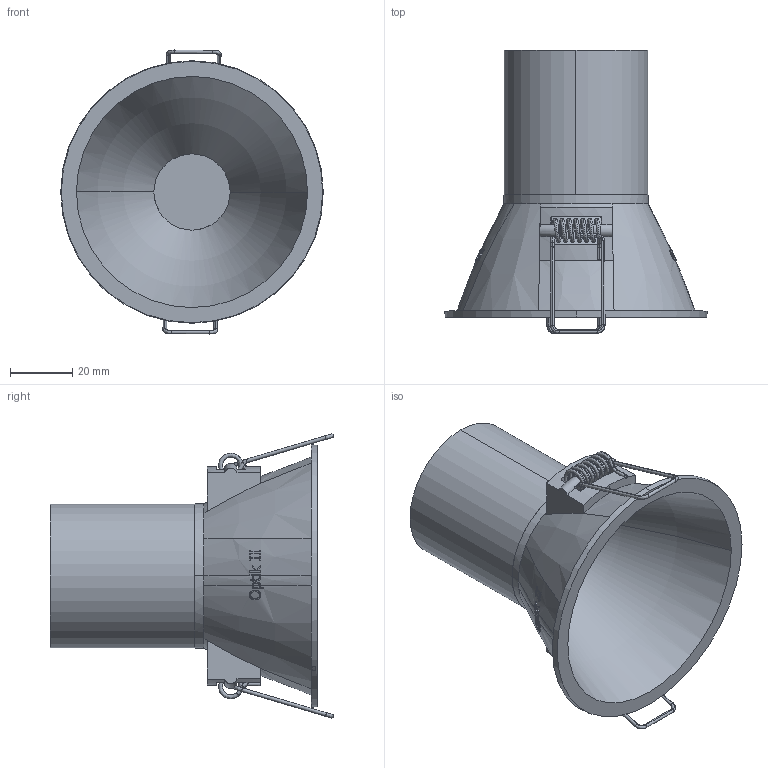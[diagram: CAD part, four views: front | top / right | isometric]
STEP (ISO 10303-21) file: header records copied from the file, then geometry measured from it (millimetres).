
FILE_DESCRIPTION (( 'STEP AP214' ), '1' );
FILE_NAME ('Optik 2.STEP', '2020-03-02T10:28:07', ( '' ), ( '' ), 'SwSTEP 2.0', 'SolidWorks 2018', '' );
FILE_SCHEMA (( 'AUTOMOTIVE_DESIGN' ));
Length unit declared in the file: millimetre
Products named in the file (10): Ensamble Cupulas_Cupula M; Tornillo DIN 7981 Ø2.2; disipador FINO_CHINA; Optik 2; Ensamble Modulo LED; cupula_M_IMP_08-11-18; Lente; Frenacable STEAB 5424_2; M3-Philips -Generico_*9; Muelle Optik_10X-11X
Assembly tree (11 placements, depth 3):
  Optik 2
    Ensamble Modulo LED
      disipador FINO_CHINA
      Frenacable STEAB 5424_2
      M3-Philips -Generico_*9
      Tornillo DIN 7981 Ø2.2  x2
    Ensamble Cupulas_Cupula M
      cupula_M_IMP_08-11-18
      Muelle Optik_10X-11X  x2
      Lente
Bounding box: 84.05 x 90.67 x 90.93 mm (x, y, z)
Volume: 66385.1 mm3; surface area: 43592.1 mm2
Topology: 9 solids, 9 shells, 566 faces, 1423 edges, 894 vertices
Faces by surface type: plane 231, bspline 185, cylinder 74, cone 42, torus 28, sphere 6
Entity records: 22686 total; most frequent: CARTESIAN_POINT 11235, ORIENTED_EDGE 2572, DIRECTION 1881, EDGE_CURVE 1286, VERTEX_POINT 825, AXIS2_PLACEMENT_3D 752, EDGE_LOOP 557, FACE_OUTER_BOUND 510
